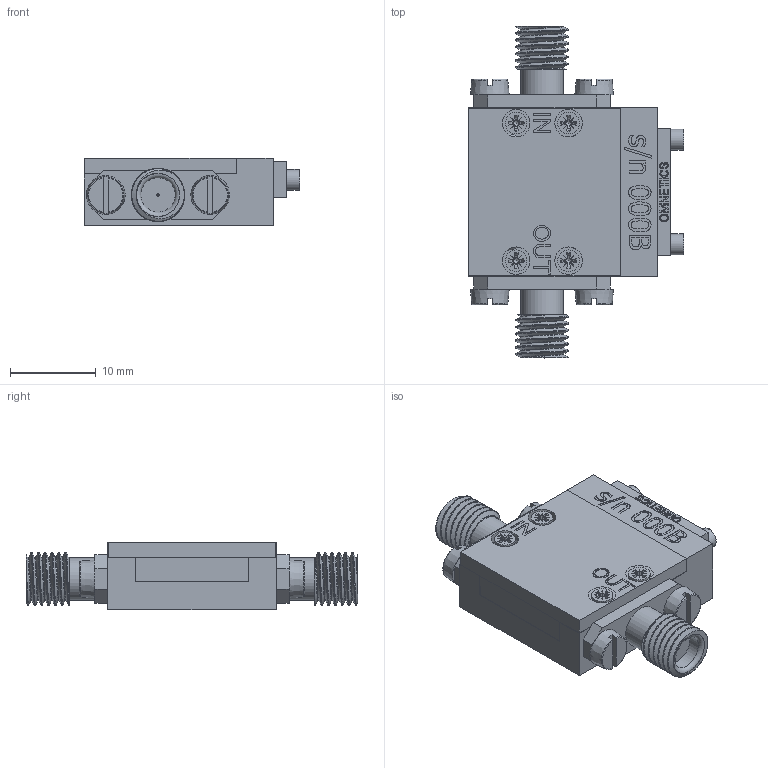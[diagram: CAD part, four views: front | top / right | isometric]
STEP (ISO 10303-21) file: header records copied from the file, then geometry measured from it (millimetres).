
FILE_DESCRIPTION(/* description */ (''),/* implementation_level */ '2;1');
FILE_NAME(/* name */ '\\crunkykid\Products\LNAs\Product information\##New models\X-band Shrinkwrap.stp',/* time_stamp */ '2022-03-21T17:12:51+01:00',/* author */ ('Stenarson'),/* organization */ (''),/* preprocessor_version */ 'ST-DEVELOPER v18.1',/* originating_system */ 'Autodesk Inventor 2022',/* authorisation */ '');
FILE_SCHEMA (('AUTOMOTIVE_DESIGN { 1 0 10303 214 3 1 1 }'));
Length unit declared in the file: inch
Products named in the file (1): X-band Shrinkwrap
Bounding box: 25.11 x 38.6 x 7.8 mm (x, y, z)
Volume: 4043.3 mm3; surface area: 2734.2 mm2
Topology: 1 solids, 1 shells, 820 faces, 2163 edges, 1422 vertices
Faces by surface type: plane 424, cone 134, cylinder 107, bspline 100, torus 53, sphere 2
Full cylindrical faces by diameter (mm): 0.25 x2, 0.323 x9, 0.439 x9, 1.191 x2, 1.524 x8, 1.63 x8, 2.013 x3, 2.438 x2, 2.515 x8, 4 x2, 4.898 x2, 6.2 x12
Entity records: 34406 total; most frequent: CARTESIAN_POINT 14421, ORIENTED_EDGE 4298, DIRECTION 3476, EDGE_CURVE 2149, VERTEX_POINT 1422, AXIS2_PLACEMENT_3D 1230, LINE 1016, VECTOR 1016
